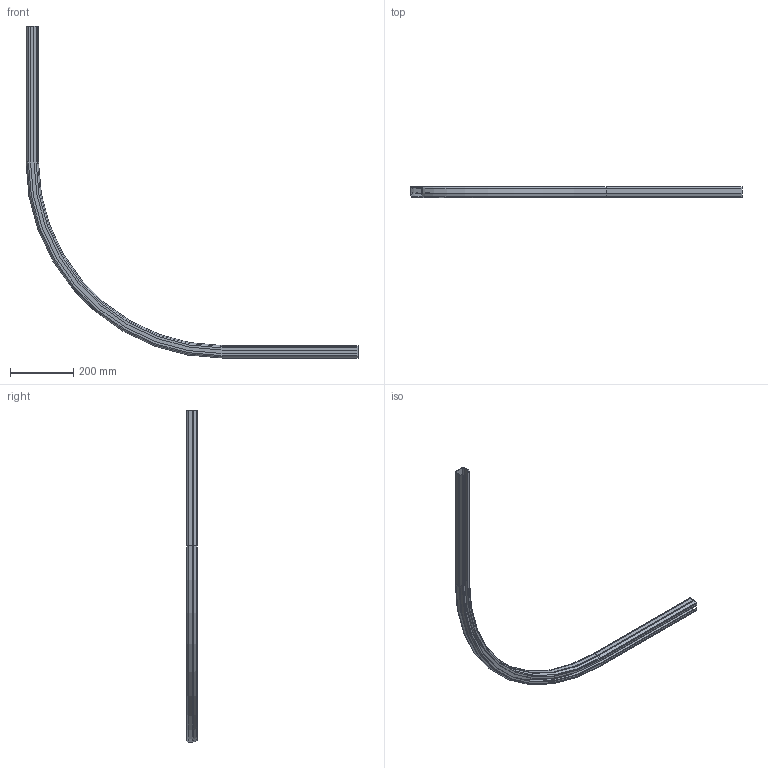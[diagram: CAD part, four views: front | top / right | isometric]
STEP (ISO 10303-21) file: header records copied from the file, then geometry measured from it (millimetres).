
FILE_DESCRIPTION(/* description */ (''),/* implementation_level */ '2;1');
FILE_NAME(/* name */ 'Q:\sge-ma\Produktmanagement-STB\STB\Workspace\stp\010337041.stp',/* time_stamp */ '2015-07-09T13:00:20+02:00',/* author */ ('avschreier'),/* organization */ (''),/* preprocessor_version */ 'ST-DEVELOPER v15.6',/* originating_system */ 'Autodesk Inventor 2015',/* authorisation */ '');
FILE_SCHEMA (('CONFIG_CONTROL_DESIGN'));
Length unit declared in the file: millimetre
Products named in the file (1): 010337041
Bounding box: 1049.75 x 34.5 x 1049.75 mm (x, y, z)
Volume: 562019.4 mm3; surface area: 419278.6 mm2
Topology: 1 solids, 1 shells, 74 faces, 184 edges, 112 vertices
Faces by surface type: cylinder 30, plane 28, torus 12, cone 4
Entity records: 2212 total; most frequent: DIRECTION 410, CARTESIAN_POINT 371, ORIENTED_EDGE 368, EDGE_CURVE 184, AXIS2_PLACEMENT_3D 151, VERTEX_POINT 112, LINE 108, VECTOR 108
